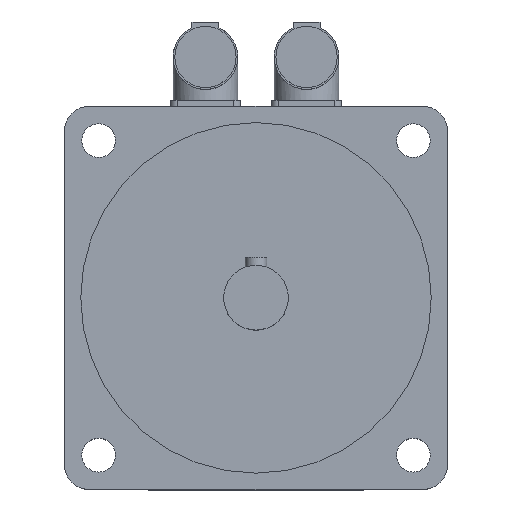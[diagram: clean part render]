
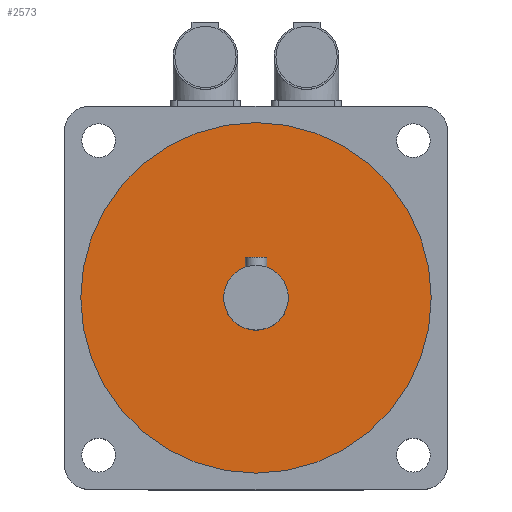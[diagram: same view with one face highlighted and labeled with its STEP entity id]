
A CAD part, top view. The second image highlights one B-rep face of the part: STEP entity #2573.
In plain terms, the highlighted planar face has unit normal (0, 0, 1).
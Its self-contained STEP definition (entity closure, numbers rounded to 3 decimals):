
#40=FACE_BOUND('',#443,.T.);
#68=CIRCLE('',#2730,12.);
#69=CIRCLE('',#2733,65.);
#285=FACE_OUTER_BOUND('',#442,.T.);
#442=EDGE_LOOP('',(#1750));
#443=EDGE_LOOP('',(#1751));
#1090=VERTEX_POINT('',#3908);
#1091=VERTEX_POINT('',#3912);
#1348=EDGE_CURVE('',#1090,#1090,#68,.T.);
#1349=EDGE_CURVE('',#1091,#1091,#69,.T.);
#1750=ORIENTED_EDGE('',*,*,#1349,.T.);
#1751=ORIENTED_EDGE('',*,*,#1348,.T.);
#2497=PLANE('',#2735);
#2573=ADVANCED_FACE('',(#285,#40),#2497,.F.);
#2730=AXIS2_PLACEMENT_3D('',#3909,#3045,#3046);
#2733=AXIS2_PLACEMENT_3D('',#3913,#3051,#3052);
#2735=AXIS2_PLACEMENT_3D('',#3916,#3055,#3056);
#3045=DIRECTION('center_axis',(0.,0.,
-1.));
#3046=DIRECTION('ref_axis',(-1.,0.,0.));
#3051=DIRECTION('center_axis',(0.,0.,
1.));
#3052=DIRECTION('ref_axis',(-1.,0.,0.));
#3055=DIRECTION('center_axis',(0.,0.,
-1.));
#3056=DIRECTION('ref_axis',(-1.,0.,0.));
#3908=CARTESIAN_POINT('',(12.,0.,126.5));
#3909=CARTESIAN_POINT('Origin',(0.,0.,
126.5));
#3912=CARTESIAN_POINT('',(65.,0.,126.5));
#3913=CARTESIAN_POINT('Origin',(0.,0.,
126.5));
#3916=CARTESIAN_POINT('Origin',(0.,0.,
126.5));
